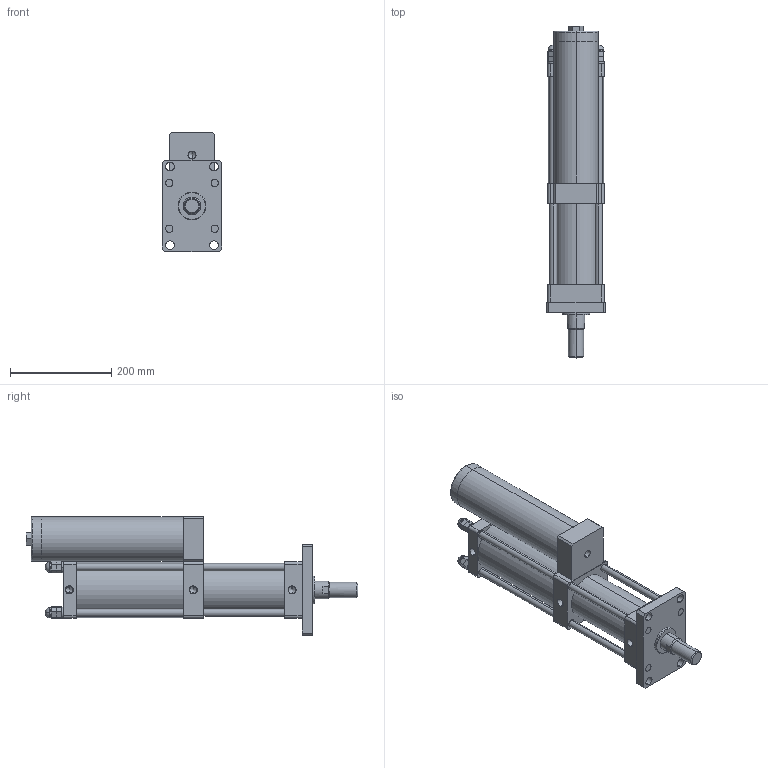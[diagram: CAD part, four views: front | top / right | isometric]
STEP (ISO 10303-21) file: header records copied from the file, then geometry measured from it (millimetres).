
FILE_DESCRIPTION (( 'STEP AP203' ), '1' );
FILE_NAME ('MPT-80-100-10-8T.STEP', '2016-03-11T03:27:28', ( 'WIN' ), ( '' ), 'SwSTEP 2.0', 'SolidWorks 2014', '' );
FILE_SCHEMA (( 'CONFIG_CONTROL_DESIGN' ));
Length unit declared in the file: millimetre
Products named in the file (1): MPT-80-100-10-8T
Bounding box: 118 x 655 x 235 mm (x, y, z)
Volume: 5672408.7 mm3; surface area: 669658.7 mm2
Topology: 20 solids, 20 shells, 400 faces, 968 edges, 562 vertices
Faces by surface type: plane 187, cylinder 90, torus 48, bspline 48, cone 27
Entity records: 12732 total; most frequent: CARTESIAN_POINT 3707, DIRECTION 1901, ORIENTED_EDGE 1804, EDGE_CURVE 902, AXIS2_PLACEMENT_3D 700, VERTEX_POINT 562, VECTOR 501, LINE 501
